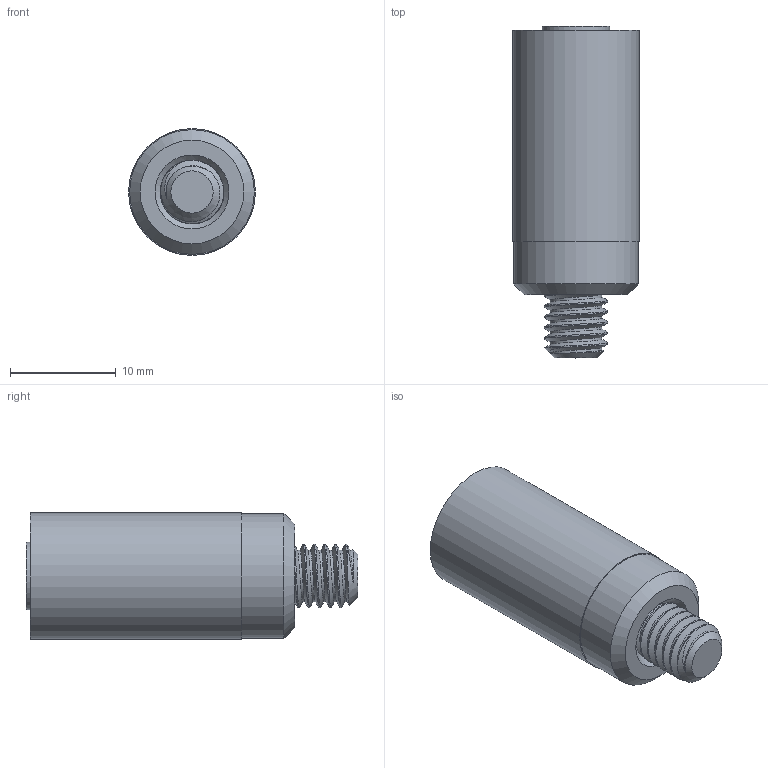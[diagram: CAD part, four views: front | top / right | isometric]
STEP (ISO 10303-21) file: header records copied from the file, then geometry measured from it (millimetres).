
FILE_DESCRIPTION (( 'STEP AP214' ), '1' );
FILE_NAME ('DAF-12.STEP', '2018-10-09T17:58:05', ( '' ), ( '' ), 'SwSTEP 2.0', 'SolidWorks 2017', '' );
FILE_SCHEMA (( 'AUTOMOTIVE_DESIGN' ));
Length unit declared in the file: millimetre
Products named in the file (1): DAF-12
Bounding box: 12 x 31.4 x 12 mm (x, y, z)
Volume: 2892.9 mm3; surface area: 1752.2 mm2
Topology: 2 solids, 2 shells, 103 faces, 261 edges, 173 vertices
Faces by surface type: plane 53, cylinder 39, bspline 6, cone 5
Full cylindrical faces by diameter (mm): 5 x6, 6.4 x1, 11.8 x1, 12 x1
Entity records: 10066 total; most frequent: CARTESIAN_POINT 6896, ORIENTED_EDGE 466, DIRECTION 356, EDGE_CURVE 233, VERTEX_POINT 159, VECTOR 144, LINE 144, EDGE_LOOP 116
